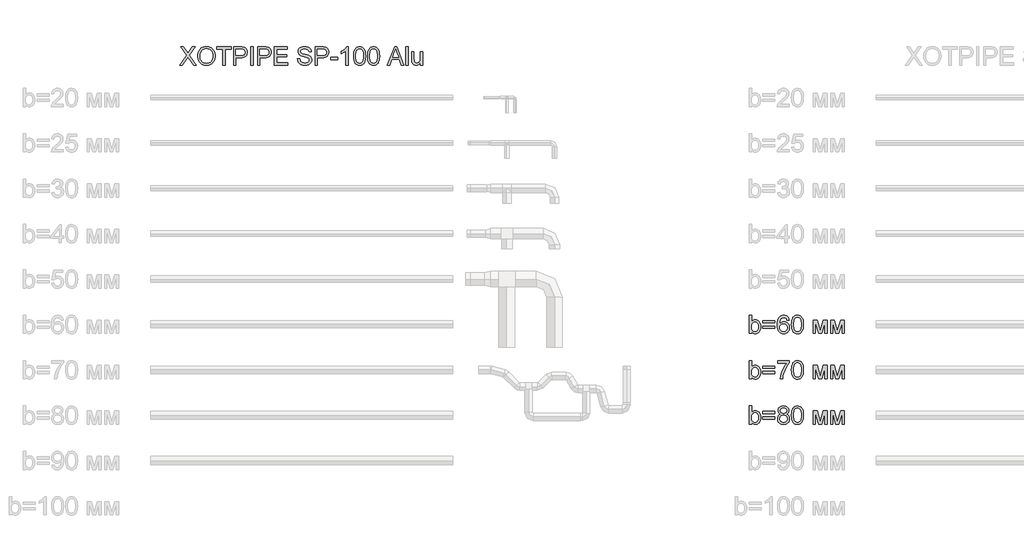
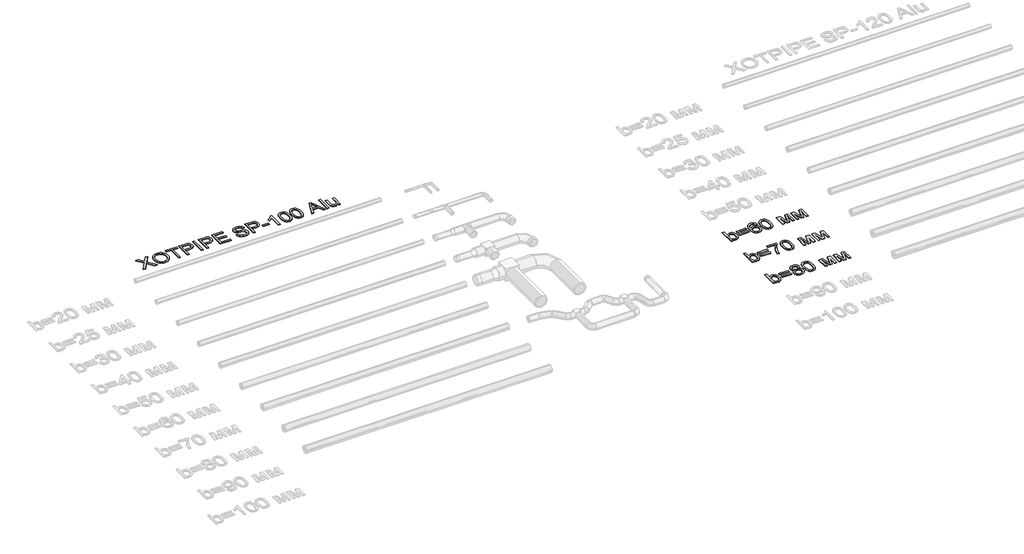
# One storey, part 61 of 86: 4 proxies.
"""IFC4 building model written with IfcOpenShell, lengths in millimetres."""

from ifc_helpers import new_model, si_unit, origin, origin_with_axes, place, context, project, spatial, polyline, outline, extrude, element, save

model = new_model("IFC4")

# Units and contexts
model_context = context("Model", 3, world=origin())
ifc_project = project(units=[si_unit("LENGTHUNIT", "METRE", prefix="MILLI")], contexts=[model_context])

# Site, building, storey
site = spatial("IfcSite", under=ifc_project)
building = spatial("IfcBuilding", under=site)
storey = spatial("IfcBuildingStorey", under=building, Name="Уровень 1", Elevation=0.0)

# Proxies
placement = place(None, origin())
element("IfcBuildingElementProxy", 1, Name="Текст модели 1", ObjectType="Текст модели 1", at=placement, inside=storey, context=model_context, shape_type="SweptSolid", body=[
    extrude(outline(polyline([(28246.1062284, 60543.2937088), (28478.4604965, 60871.7387541), (28283.7773447, 61146.0315697), (28374.1291627, 61146.0315697), (28483.7579973, 60991.6682845), (28509.9144071, 60952.5624284), (28520.6933496, 60931.4827901), (28563.9562722, 60992.6983541), (28672.4078844, 61146.0315697), (28764.0840776, 61146.0315697), (28569.4009257, 60870.8558373), (28801.7551939, 60543.2937088), (28711.4033759, 60543.2937088), (28556.5986323, 60761.6684611), (28524.3721695, 60806.9915229), (28488.9083452, 60757.2538772), (28337.7824216, 60543.2937088), (28246.1062284, 60543.2937088)])), origin_with_axes(), (0.0, 0.0, 1.0), 20.0),
    extrude(outline(polyline([(28848.8440893, 60836.7163882), (28853.8656785, 60907.4141106), (28868.9304462, 60970.000035), (28894.0383924, 61024.4741614), (28910.3585574, 61048.6693004), (28929.189517, 61070.8364899), (28972.2776957, 61107.8546156), (29021.196804, 61134.2961341), (29075.9468419, 61150.1610451), (29136.5278095, 61155.4493488), (29177.0776024, 61152.9661453), (29215.5856503, 61145.5165349), (29252.051953, 61133.1005176), (29286.4765107, 61115.7180933), (29317.8936331, 61093.8934939), (29345.33763, 61068.1509513), (29368.8085013, 61038.4904655), (29388.306247, 61004.9120363), (29403.6285321, 60968.1790191), (29414.5730215, 60929.0547689), (29421.1397151, 60887.5392858), (29423.3286129, 60843.6325697), (29421.0247519, 60799.1464394), (29414.113169, 60757.0699362), (29402.593864, 60717.4030601), (29386.466837, 60680.145811), (29366.1137656, 60646.2822733), (29341.9163274, 60616.7965314), (29313.8745223, 60591.6885853), (29281.9883504, 60570.9584348), (29247.5132089, 60554.7348388), (29211.7044952, 60543.146556), (29174.5622093, 60536.1935863), (29136.0863511, 60533.8759297), (29094.8283853, 60536.4373081), (29055.8144998, 60544.1214433), (29019.0446943, 60556.9283352), (28984.5189691, 60574.857984), (28953.1386349, 60597.2160122), (28925.8050027, 60623.3080428), (28902.5180724, 60653.1340755), (28883.277844, 60686.6941105), (28868.2130763, 60722.64078), (28857.452528, 60759.6267161), (28850.9961989, 60797.6519188), (28848.8440893, 60836.7163882)]), holes=[polyline([(28924.1863219, 60835.9806242), (28927.9525138, 60786.0314463), (28939.2510896, 60741.6924688), (28958.0820492, 60702.9636918), (28984.4453927, 60669.8451151), (29016.492513, 60643.3208233), (29052.3748031, 60624.3749005), (29092.092263, 60613.0073469), (29135.6448927, 60609.2181623), (29179.9424835, 60613.0441351), (29220.1289929, 60624.5220533), (29256.2044211, 60643.6519171), (29288.1687679, 60670.4337263), (29314.3389733, 60704.2512787), (29333.0319772, 60744.488372), (29344.2477795, 60791.145006), (29347.9863803, 60844.2211809), (29346.3860936, 60878.7009209), (29341.5852336, 60910.9181866), (29333.5838002, 60940.872978), (29322.3817935, 60968.5652952), (29308.1033735, 60993.6318547), (29290.8727006, 61015.7093729), (29270.6897746, 61034.7978499), (29247.5545956, 61050.8972857), (29222.1845335, 61063.6765866), (29195.2969582, 61072.8046586), (29166.8918697, 61078.2815018), (29136.9692679, 61080.1071162), (29094.9295529, 61076.5892446), (29055.9248644, 61066.0356298), (29019.9552023, 61048.446272), (28987.0205667, 61023.8211709), (28959.5305846, 60990.9739073), (28939.8948831, 60948.7180616), (28928.1134622, 60897.0536339), (28924.1863219, 60835.9806242)])]), origin_with_axes(), (0.0, 0.0, 1.0), 20.0),
    extrude(outline(polyline([(29677.608648, 60543.2937088), (29677.608648, 61070.6893371), (29479.8352874, 61070.6893371), (29479.8352874, 61146.0315697), (29950.7242412, 61146.0315697), (29950.7242412, 61070.6893371), (29752.9508806, 61070.6893371), (29752.9508806, 60543.2937088), (29677.608648, 60543.2937088)])), origin_with_axes(), (0.0, 0.0, 1.0), 20.0),
    extrude(outline(polyline([(30035.4842529, 60543.2937088), (30035.4842529, 61146.0315697), (30258.8622004, 61146.0315697), (30310.8807145, 61144.5968299), (30348.9197128, 61140.2926106), (30389.0740326, 61129.5688504), (30422.1282298, 61112.1128497), (30448.7444922, 61087.1336623), (30469.5850072, 61053.8403417), (30483.0494882, 61014.5689387), (30487.5376486, 60971.655504), (30484.5072206, 60934.6557723), (30475.4159368, 60900.6174907), (30460.2637972, 60869.5406592), (30439.0508016, 60841.4252777), (30409.9283432, 60818.1199533), (30371.0478148, 60801.473293), (30322.4092165, 60791.4852968), (30264.0125483, 60788.1559648), (30110.8264855, 60788.1559648), (30110.8264855, 60543.2937088), (30035.4842529, 60543.2937088)]), holes=[polyline([(30110.8264855, 60863.4981974), (30268.4271323, 60863.4981974), (30304.6635088, 60865.2272428), (30335.2345026, 60870.4143789), (30360.1401137, 60879.0596058), (30379.380342, 60891.1629234), (30393.7369369, 60906.4024351), (30403.9916475, 60924.456244), (30410.1444738, 60945.3243502), (30412.195416, 60969.0067536), (30407.3577677, 61002.8518972), (30392.844823, 61031.39954), (30370.4592036, 61052.8838485), (30342.0035313, 61065.5389892), (30312.9408537, 61069.4017501), (30266.6612987, 61070.6893371), (30110.8264855, 61070.6893371), (30110.8264855, 60863.4981974)])]), origin_with_axes(), (0.0, 0.0, 1.0), 20.0),
    extrude(outline(polyline([(30600.5509975, 60543.2937088), (30600.5509975, 61146.0315697), (30675.8932301, 61146.0315697), (30675.8932301, 60543.2937088), (30600.5509975, 60543.2937088)])), origin_with_axes(), (0.0, 0.0, 1.0), 20.0),
    extrude(outline(polyline([(30826.5776953, 60543.2937088), (30826.5776953, 61146.0315697), (31049.9556428, 61146.0315697), (31101.9741569, 61144.5968299), (31140.0131552, 61140.2926106), (31180.167475, 61129.5688504), (31213.2216723, 61112.1128497), (31239.8379346, 61087.1336623), (31260.6784496, 61053.8403417), (31274.1429307, 61014.5689387), (31278.631091, 60971.655504), (31275.6006631, 60934.6557723), (31266.5093793, 60900.6174907), (31251.3572396, 60869.5406592), (31230.144244, 60841.4252777), (31201.0217856, 60818.1199533), (31162.1412572, 60801.473293), (31113.502659, 60791.4852968), (31055.1059907, 60788.1559648), (30901.919928, 60788.1559648), (30901.919928, 60543.2937088), (30826.5776953, 60543.2937088)]), holes=[polyline([(30901.919928, 60863.4981974), (31059.5205747, 60863.4981974), (31095.7569512, 60865.2272428), (31126.327945, 60870.4143789), (31151.2335561, 60879.0596058), (31170.4737844, 60891.1629234), (31184.8303793, 60906.4024351), (31195.0850899, 60924.456244), (31201.2379163, 60945.3243502), (31203.2888584, 60969.0067536), (31198.4512102, 61002.8518972), (31183.9382655, 61031.39954), (31161.552646, 61052.8838485), (31133.0969737, 61065.5389892), (31104.0342961, 61069.4017501), (31057.7547411, 61070.6893371), (30901.919928, 61070.6893371), (30901.919928, 60863.4981974)])]), origin_with_axes(), (0.0, 0.0, 1.0), 20.0),
    extrude(outline(polyline([(31382.2266609, 60543.2937088), (31382.2266609, 61146.0315697), (31815.4444984, 61146.0315697), (31815.4444984, 61070.6893371), (31457.5688935, 61070.6893371), (31457.5688935, 60891.7515346), (31796.6089402, 60891.7515346), (31796.6089402, 60816.409302), (31457.5688935, 60816.409302), (31457.5688935, 60618.6359414), (31824.8622775, 60618.6359414), (31824.8622775, 60543.2937088), (31382.2266609, 60543.2937088)])), origin_with_axes(), (0.0, 0.0, 1.0), 20.0),
    extrude(outline(polyline([(32145.0667661, 60750.4848485), (32220.4089987, 60750.4848485), (32229.0542256, 60708.6750597), (32244.6892103, 60675.0690395), (32269.0797866, 60648.3975948), (32303.991788, 60627.3915329), (32346.6660994, 60613.761505), (32394.343606, 60609.2181623), (32436.3189416, 60612.657859), (32473.070353, 60622.976949), (32502.8504005, 60639.3109095), (32523.9116447, 60660.7952181), (32536.4380266, 60685.4617058), (32540.6134873, 60711.3422042), (32537.4864903, 60736.560515), (32528.1054994, 60758.3575232), (32509.0492121, 60776.953958), (32476.8963257, 60792.5705487), (32367.1939147, 60821.3389208), (32295.1810142, 60840.376814), (32249.1037943, 60858.4950023), (32211.5982249, 60883.8420717), (32185.0187507, 60914.5602183), (32169.1814308, 60949.9872545), (32163.9023242, 60989.4609925), (32165.5348006, 61011.8971957), (32170.4322296, 61033.5884379), (32178.5946114, 61054.534719), (32190.0219459, 61074.736039), (32204.5854743, 61093.3692621), (32222.1564381, 61109.6112522), (32242.7348372, 61123.4620093), (32266.3206717, 61134.9215334), (32319.3324672, 61150.3173949), (32378.0096454, 61155.4493488), (32441.5796542, 61150.0782716), (32497.2034118, 61133.9650403), (32521.5388058, 61121.9628902), (32542.8943556, 61107.4407484), (32561.2700613, 61090.398615), (32576.6659228, 61070.8364899), (32588.9623785, 61049.3245902), (32598.0398667, 61026.4331331), (32603.8983875, 61002.1621184), (32606.5379408, 60976.5115463), (32531.1957082, 60976.5115463), (32526.1557249, 61000.5526347), (32517.3633452, 61021.4667261), (32504.8185691, 61039.2538206), (32488.5213968, 61053.9139181), (32468.1683254, 61065.3734423), (32443.4558523, 61073.5588166), (32414.3839777, 61078.4700413), (32380.9527014, 61080.1071162), (32346.4545673, 61078.4884354), (32316.9780224, 61073.632393), (32292.5230668, 61065.5389892), (32273.0897004, 61054.2082237), (32258.2824501, 61040.5873928), (32247.7058427, 61025.6237927), (32241.3598783, 61009.3174232), (32239.2445568, 60991.6682845), (32240.7436759, 60976.4839552), (32245.2410333, 60962.7159715), (32252.736629, 60950.3643335), (32263.2304629, 60939.4290412), (32279.7483645, 60929.073163), (32305.7576215, 60918.6069203), (32386.2502021, 60897.343341), (32469.3179566, 60877.1466194), (32519.5706371, 60859.5250719), (32562.5208601, 60832.1914396), (32579.1261336, 60816.1241935), (32592.4848486, 60798.4566607), (32602.7533548, 60779.2808117), (32610.0880021, 60758.688617), (32615.9557199, 60713.2551906), (32614.2680612, 60689.6877503), (32609.2050853, 60666.8100887), (32600.766792, 60644.6222058), (32588.9531814, 60623.1241018), (32573.9711872, 60603.1481094), (32556.0277429, 60585.5265618), (32535.1228485, 60570.259459), (32511.2565041, 60557.346801), (32485.1230868, 60547.0782948), (32457.4169741, 60539.7436475), (32397.2866619, 60533.8759297), (32358.7464244, 60535.4578223), (32323.4711396, 60540.2035), (32291.4608075, 60548.1129629), (32262.7154281, 60559.186211), (32237.0602575, 60573.4416383), (32214.3205516, 60590.897639), (32194.4963106, 60611.554213), (32177.5875344, 60635.4113604), (32163.9667036, 60661.6965289), (32154.0062985, 60689.6371665), (32147.7063194, 60719.233273), (32145.0667661, 60750.4848485)])), origin_with_axes(), (0.0, 0.0, 1.0), 20.0),
    extrude(outline(polyline([(32728.9690688, 60543.2937088), (32728.9690688, 61146.0315697), (32952.3470163, 61146.0315697), (33004.3655304, 61144.5968299), (33042.4045287, 61140.2926106), (33082.5588485, 61129.5688504), (33115.6130457, 61112.1128497), (33142.2293081, 61087.1336623), (33163.0698231, 61053.8403417), (33176.5343041, 61014.5689387), (33181.0224645, 60971.655504), (33177.9920365, 60934.6557723), (33168.9007527, 60900.6174907), (33153.7486131, 60869.5406592), (33132.5356175, 60841.4252777), (33103.4131591, 60818.1199533), (33064.5326307, 60801.473293), (33015.8940324, 60791.4852968), (32957.4973642, 60788.1559648), (32804.3113014, 60788.1559648), (32804.3113014, 60543.2937088), (32728.9690688, 60543.2937088)]), holes=[polyline([(32804.3113014, 60863.4981974), (32961.9119481, 60863.4981974), (32998.1483247, 60865.2272428), (33028.7193185, 60870.4143789), (33053.6249295, 60879.0596058), (33072.8651579, 60891.1629234), (33087.2217528, 60906.4024351), (33097.4764634, 60924.456244), (33103.6292897, 60945.3243502), (33105.6802319, 60969.0067536), (33100.8425836, 61002.8518972), (33086.3296389, 61031.39954), (33063.9440195, 61052.8838485), (33035.4883472, 61065.5389892), (33006.4256696, 61069.4017501), (32960.1461146, 61070.6893371), (32804.3113014, 61070.6893371), (32804.3113014, 60863.4981974)])]), origin_with_axes(), (0.0, 0.0, 1.0), 20.0),
    extrude(outline(polyline([(33237.5291389, 60722.2315113), (33237.5291389, 60797.5737439), (33472.9736158, 60797.5737439), (33472.9736158, 60722.2315113), (33237.5291389, 60722.2315113)])), origin_with_axes(), (0.0, 0.0, 1.0), 20.0),
    extrude(outline(polyline([(33821.4314417, 60543.2937088), (33746.0892091, 60543.2937088), (33746.0892091, 61013.0054402), (33714.6352985, 60987.5664003), (33674.720102, 60962.1641485), (33632.8183427, 60939.9624701), (33595.4047438, 60924.1251502), (33595.4047438, 60995.3471045), (33654.5785628, 61027.5367791), (33705.8429188, 61065.8332947), (33746.254756, 61106.5578316), (33772.8710183, 61146.0315697), (33821.4314417, 61146.0315697), (33821.4314417, 60543.2937088)])), origin_with_axes(), (0.0, 0.0, 1.0), 20.0),
    extrude(outline(polyline([(34000.3692441, 60839.8065969), (34005.9058682, 60936.2836501), (34012.8266482, 60977.1967265), (34022.5157402, 61013.2261694), (34034.9317576, 61044.6662845), (34050.0333135, 61071.8113772), (34067.8204079, 61094.6614476), (34088.293041, 61113.2164957), (34111.5201904, 61127.5730906), (34137.5708342, 61137.8278012), (34166.4449723, 61143.9806276), (34198.1426047, 61146.0315697), (34244.5693125, 61141.1755274), (34286.139978, 61126.6074004), (34320.9048265, 61102.8974058), (34346.9140836, 61070.6157607), (34366.5589821, 61030.0383766), (34382.2307551, 60981.4411651), (34392.4946628, 60919.7289604), (34395.9159653, 60839.8065969), (34390.4345236, 60743.8813667), (34383.5827215, 60703.106246), (34373.9901984, 60667.1227884), (34361.6707501, 60635.6688778), (34346.6381721, 60608.4823983), (34328.8924643, 60585.56335), (34308.4336269, 60566.9117329), (34285.1788863, 60552.458569), (34259.045469, 60542.1348805), (34230.0333752, 60535.9406674), (34198.1426047, 60533.8759297), (34156.6455157, 60537.4627792), (34119.8573162, 60548.2233275), (34087.7780062, 60566.1575748), (34060.4075857, 60591.265521), (34034.1408113, 60636.6529621), (34015.3788295, 60693.2056218), (34004.1216405, 60760.9235001), (34000.3692441, 60839.8065969)]), holes=[polyline([(34075.7114767, 60839.9537497), (34077.9187687, 60774.456959), (34084.5406446, 60721.440565), (34095.5771045, 60680.9045676), (34111.0281483, 60652.848967), (34129.7165536, 60633.7604899), (34150.4650982, 60620.1258635), (34173.2737819, 60611.9450876), (34198.1426047, 60609.2181623), (34223.0114276, 60611.9542847), (34245.8201113, 60620.1626517), (34266.5686558, 60633.8432634), (34285.2570612, 60652.9961198), (34300.708105, 60681.0977057), (34311.7445648, 60721.624506), (34318.3664408, 60774.5765206), (34320.5737327, 60839.9537497), (34318.4400172, 60903.7168965), (34312.0388704, 60955.79979), (34301.3702926, 60996.2024301), (34286.4342836, 61024.9248169), (34268.0585779, 61044.9467945), (34247.0709101, 61059.248207), (34223.4712801, 61067.8290546), (34197.2596879, 61070.6893371), (34172.5196238, 61068.1693454), (34150.0972162, 61060.6093704), (34129.9924651, 61048.0094121), (34112.2053707, 61030.3694704), (34096.2392921, 60999.0995008), (34084.8349502, 60956.9402242), (34077.9923451, 60903.8916405), (34075.7114767, 60839.9537497)])]), origin_with_axes(), (0.0, 0.0, 1.0), 20.0),
    extrude(outline(polyline([(34461.8404189, 60839.8065969), (34467.3770429, 60936.2836501), (34474.2978229, 60977.1967265), (34483.986915, 61013.2261694), (34496.4029323, 61044.6662845), (34511.5044882, 61071.8113772), (34529.2915827, 61094.6614476), (34549.7642157, 61113.2164957), (34572.9913652, 61127.5730906), (34599.042009, 61137.8278012), (34627.9161471, 61143.9806276), (34659.6137795, 61146.0315697), (34706.0404873, 61141.1755274), (34747.6111527, 61126.6074004), (34782.3760013, 61102.8974058), (34808.3852583, 61070.6157607), (34828.0301569, 61030.0383766), (34843.7019299, 60981.4411651), (34853.9658375, 60919.7289604), (34857.3871401, 60839.8065969), (34851.9056984, 60743.8813667), (34845.0538962, 60703.106246), (34835.4613732, 60667.1227884), (34823.1419249, 60635.6688778), (34808.1093468, 60608.4823983), (34790.3636391, 60585.56335), (34769.9048016, 60566.9117329), (34746.650061, 60552.458569), (34720.5166438, 60542.1348805), (34691.5045499, 60535.9406674), (34659.6137795, 60533.8759297), (34618.1166904, 60537.4627792), (34581.3284909, 60548.2233275), (34549.2491809, 60566.1575748), (34521.8787605, 60591.265521), (34495.611986, 60636.6529621), (34476.8500043, 60693.2056218), (34465.5928152, 60760.9235001), (34461.8404189, 60839.8065969)]), holes=[polyline([(34537.1826515, 60839.9537497), (34539.3899435, 60774.456959), (34546.0118194, 60721.440565), (34557.0482792, 60680.9045676), (34572.499323, 60652.848967), (34591.1877284, 60633.7604899), (34611.9362729, 60620.1258635), (34634.7449566, 60611.9450876), (34659.6137795, 60609.2181623), (34684.4826024, 60611.9542847), (34707.2912861, 60620.1626517), (34728.0398306, 60633.8432634), (34746.7282359, 60652.9961198), (34762.1792797, 60681.0977057), (34773.2157396, 60721.624506), (34779.8376155, 60774.5765206), (34782.0449075, 60839.9537497), (34779.9111919, 60903.7168965), (34773.5100452, 60955.79979), (34762.8414673, 60996.2024301), (34747.9054583, 61024.9248169), (34729.5297527, 61044.9467945), (34708.5420848, 61059.248207), (34684.9424549, 61067.8290546), (34658.7308627, 61070.6893371), (34633.9907985, 61068.1693454), (34611.5683909, 61060.6093704), (34591.4636399, 61048.0094121), (34573.6765454, 61030.3694704), (34557.7104668, 60999.0995008), (34546.306125, 60956.9402242), (34539.4635199, 60903.8916405), (34537.1826515, 60839.9537497)])]), origin_with_axes(), (0.0, 0.0, 1.0), 20.0),
    extrude(outline(polyline([(35116.8175231, 60543.2937088), (35357.4123479, 61146.0315697), (35421.5709679, 61146.0315697), (35662.1657927, 60543.2937088), (35582.556129, 60543.2937088), (35513.5414667, 60731.6492903), (35265.2946963, 60731.6492903), (35196.4271868, 60543.2937088), (35116.8175231, 60543.2937088)]), holes=[polyline([(35292.9594224, 60806.9915229), (35486.0238935, 60806.9915229), (35431.724511, 60955.1743906), (35389.4916579, 61070.6893371), (35351.9676944, 60968.1238368), (35292.9594224, 60806.9915229)])]), origin_with_axes(), (0.0, 0.0, 1.0), 20.0),
    extrude(outline(polyline([(35733.2405942, 60543.2937088), (35733.2405942, 61146.0315697), (35808.5828268, 61146.0315697), (35808.5828268, 60543.2937088), (35733.2405942, 60543.2937088)])), origin_with_axes(), (0.0, 0.0, 1.0), 20.0),
    extrude(outline(polyline([(36204.129548, 60543.2937088), (36204.129548, 60619.3717054), (36176.8694922, 60581.9673035), (36145.121276, 60555.2498736), (36108.8848995, 60539.2194157), (36068.1603626, 60533.8759297), (36031.4641336, 60537.6283261), (35997.3062903, 60548.8855151), (35968.6482829, 60565.8080869), (35948.4515614, 60586.5566314), (35934.8583217, 60611.7565481), (35926.0107597, 60642.0332363), (35921.5961757, 60712.0779682), (35921.5961757, 60985.9293254), (35996.9384084, 60985.9293254), (35996.9384084, 60747.5417925), (35998.0788425, 60699.8642859), (36001.5001451, 60670.7280319), (36012.4814226, 60645.105051), (36031.2985867, 60625.6256993), (36056.7008385, 60613.3200466), (36087.4373792, 60609.2181623), (36119.9397534, 60613.4120171), (36150.3452003, 60625.9935813), (36175.4163583, 60645.8040268), (36191.9158658, 60671.6845251), (36201.0761275, 60707.1299554), (36204.129548, 60755.6351964), (36204.129548, 60985.9293254), (36279.4717806, 60985.9293254), (36279.4717806, 60543.2937088), (36204.129548, 60543.2937088)])), origin_with_axes(), (0.0, 0.0, 1.0), 20.0),
])
element("IfcBuildingElementProxy", 2, Name="Текст модели 1", ObjectType="Текст модели 1", at=placement, inside=storey, context=model_context, shape_type="SweptSolid", body=[
    extrude(outline(polyline([(47159.6307988, 51669.2937088), (47084.2885662, 51669.2937088), (47084.2885662, 52272.0315697), (47159.6307988, 52272.0315697), (47159.6307988, 52048.5064694), (47184.4076512, 52080.3742473), (47212.3850769, 52103.1369457), (47243.563076, 52116.7945648), (47277.9416484, 52121.3471045), (47316.7531989, 52117.2452202), (47353.4310339, 52104.9395675), (47385.8782258, 52085.2026984), (47411.9978475, 52058.8071653), (47432.4704805, 52026.0104854), (47447.9767066, 51987.0701762), (47457.7439736, 51943.6049185), (47460.9997292, 51897.233393), (47457.6290105, 51843.7249568), (47447.5168541, 51796.6544555), (47430.6632602, 51756.0218892), (47407.0682288, 51721.8272577), (47378.7459136, 51694.7235517), (47347.7104688, 51675.3637617), (47313.9618943, 51663.7478877), (47277.50019, 51659.8759297), (47241.9903805, 51664.8699278), (47210.5088787, 51679.8519221), (47183.0556848, 51704.8219125), (47159.6307988, 51739.7798991), (47159.6307988, 51669.2937088)]), holes=[polyline([(47159.6307988, 51893.7017259), (47164.7811467, 51830.8674811), (47171.2190816, 51807.065516), (47180.2321905, 51788.3403224), (47198.4883345, 51765.0993774), (47219.7059286, 51748.4987024), (47243.8849727, 51738.5382973), (47271.0254669, 51735.2181623), (47293.5582391, 51737.6645776), (47314.5091188, 51745.0038234), (47333.8781058, 51757.2358997), (47351.6652003, 51774.3608066), (47366.5368299, 51796.3325588), (47377.1594225, 51823.105171), (47383.5329781, 51854.6786432), (47385.6574966, 51891.0529755), (47383.6203501, 51928.1170865), (47377.5089104, 51959.9940614), (47367.3231777, 51986.6839001), (47353.0631519, 52008.1866028), (47335.9152524, 52024.7320955), (47317.0658986, 52036.5503046), (47296.5150907, 52043.64123), (47274.2628285, 52046.0048719), (47251.7300563, 52043.5584566), (47230.7791767, 52036.2192108), (47211.4101896, 52023.9871344), (47193.6230951, 52006.8622276), (47178.7514655, 51985.1112046), (47168.1288729, 51959.00078), (47161.7553173, 51928.5309538), (47159.6307988, 51893.7017259)])]), origin_with_axes(), (0.0, 0.0, 1.0), 20.0),
    extrude(outline(polyline([(47931.8886831, 52017.7515346), (47536.3419619, 52017.7515346), (47536.3419619, 52093.0937672), (47931.8886831, 52093.0937672), (47931.8886831, 52017.7515346)])), origin_with_axes(), (0.0, 0.0, 1.0), 20.0),
    extrude(outline(polyline([(47931.8886831, 51838.8137322), (47536.3419619, 51838.8137322), (47536.3419619, 51914.1559648), (47931.8886831, 51914.1559648), (47931.8886831, 51838.8137322)])), origin_with_axes(), (0.0, 0.0, 1.0), 20.0),
    extrude(outline(polyline([(48402.7776369, 52111.9293254), (48327.4354043, 52102.5115463), (48315.2952984, 52139.8515688), (48298.8877615, 52165.3457911), (48282.6917566, 52179.0585925), (48264.7115241, 52188.8534506), (48244.9470639, 52194.7303655), (48223.398376, 52196.6893371), (48188.3760101, 52192.1276003), (48155.4137833, 52178.4423901), (48127.1052638, 52149.6188358), (48103.9838804, 52109.9427626), (48094.9477789, 52084.6370799), (48088.3672897, 52053.8223643), (48082.5731483, 51975.6658344), (48112.7946542, 52010.9273236), (48149.0126366, 52035.7777524), (48189.2037446, 52050.5114263), (48231.3446271, 52055.4226509), (48267.5442155, 52052.0657277), (48300.9479006, 52041.9949581), (48331.5556826, 52025.2103421), (48359.3675615, 52001.7118796), (48382.4797478, 51972.8975224), (48398.9884523, 51940.1652218), (48408.8936751, 51903.5149781), (48412.195416, 51862.9467911), (48410.6411145, 51835.4798016), (48405.9782103, 51808.9968965), (48398.2067031, 51783.4980757), (48387.3265931, 51758.9833392), (48373.7241563, 51736.3677936), (48357.7856689, 51716.5665452), (48339.5111308, 51699.5795941), (48318.900542, 51685.4069402), (48296.3953609, 51674.2371231), (48272.437046, 51666.2586823), (48247.0255972, 51661.4716179), (48220.1610145, 51659.8759297), (48175.2472214, 51664.1065727), (48134.6836329, 51676.7985015), (48098.470249, 51697.9517162), (48066.6070697, 51727.5662168), (48040.6300023, 51766.8928021), (48022.0749542, 51817.1822709), (48010.9419253, 51878.4346231), (48007.2309157, 51950.6498587), (48011.351194, 52031.6114888), (48023.7120291, 52100.7089245), (48044.3134208, 52157.9421659), (48057.7043254, 52182.1097138), (48073.1553692, 52203.311213), (48104.4161418, 52233.3763691), (48140.6617153, 52254.8514805), (48181.8920899, 52267.7365474), (48228.1072656, 52272.0315697), (48262.8077348, 52269.3736223), (48294.2156601, 52261.39978), (48322.3310416, 52248.110043), (48347.1538792, 52229.5044111), (48368.0127884, 52206.2082837), (48384.2363843, 52178.8470603), (48395.8246672, 52147.4207409), (48402.7776369, 52111.9293254)]), holes=[polyline([(48082.5731483, 51864.1240134), (48086.9325499, 51830.7387224), (48100.0107549, 51798.8617475), (48120.317841, 51771.4545389), (48146.3638863, 51751.4785465), (48177.7994027, 51739.2832584), (48214.2749026, 51735.2181623), (48240.4635021, 51737.3242868), (48263.9941542, 51743.64266), (48284.8668589, 51754.1732821), (48303.0816162, 51768.9161531), (48317.8566768, 51787.2734647), (48328.4102916, 51808.6474086), (48334.7424604, 51833.0379849), (48336.8531834, 51860.4451935), (48334.7700516, 51886.7809458), (48328.5206562, 51910.1644451), (48318.1049972, 51930.5956914), (48303.5230746, 51948.0746847), (48285.253135, 51962.0771932), (48263.773425, 51972.0789849), (48239.0839446, 51978.08006), (48211.1846938, 51980.0804183), (48185.3455822, 51978.08006), (48161.5390186, 51972.0789849), (48139.765003, 51962.0771932), (48120.0235354, 51948.0746847), (48103.638991, 51930.8256177), (48091.9357451, 51911.0841501), (48084.9137975, 51888.850282), (48082.5731483, 51864.1240134)])]), origin_with_axes(), (0.0, 0.0, 1.0), 20.0),
    extrude(outline(polyline([(48478.1198695, 51965.8065969), (48483.6564935, 52062.2836501), (48490.5772736, 52103.1967265), (48500.2663656, 52139.2261694), (48512.682383, 52170.6662845), (48527.7839389, 52197.8113772), (48545.5710333, 52220.6614476), (48566.0436664, 52239.2164957), (48589.2708158, 52253.5730906), (48615.3214596, 52263.8278012), (48644.1955977, 52269.9806276), (48675.8932301, 52272.0315697), (48722.3199379, 52267.1755274), (48763.8906034, 52252.6074004), (48798.6554519, 52228.8974058), (48824.664709, 52196.6157607), (48844.3096075, 52156.0383766), (48859.9813805, 52107.4411651), (48870.2452882, 52045.7289604), (48873.6665907, 51965.8065969), (48868.185149, 51869.8813667), (48861.3333468, 51829.106246), (48851.7408238, 51793.1227884), (48839.4213755, 51761.6688778), (48824.3887975, 51734.4823983), (48806.6430897, 51711.56335), (48786.1842523, 51692.9117329), (48762.9295116, 51678.458569), (48736.7960944, 51668.1348805), (48707.7840006, 51661.9406674), (48675.8932301, 51659.8759297), (48634.3961411, 51663.4627792), (48597.6079415, 51674.2233275), (48565.5286316, 51692.1575748), (48538.1582111, 51717.265521), (48511.8914367, 51762.6529621), (48493.1294549, 51819.2056218), (48481.8722659, 51886.9235001), (48478.1198695, 51965.8065969)]), holes=[polyline([(48553.4621021, 51965.9537497), (48555.6693941, 51900.456959), (48562.29127, 51847.440565), (48573.3277299, 51806.9045676), (48588.7787737, 51778.848967), (48607.467179, 51759.7604899), (48628.2157235, 51746.1258635), (48651.0244072, 51737.9450876), (48675.8932301, 51735.2181623), (48700.762053, 51737.9542847), (48723.5707367, 51746.1626517), (48744.3192812, 51759.8432634), (48763.0076866, 51778.9961198), (48778.4587304, 51807.0977057), (48789.4951902, 51847.624506), (48796.1170661, 51900.5765206), (48798.3243581, 51965.9537497), (48796.1906425, 52029.7168965), (48789.7894958, 52081.79979), (48779.120918, 52122.2024301), (48764.184909, 52150.9248169), (48745.8092033, 52170.9467945), (48724.8215355, 52185.248207), (48701.2219055, 52193.8290546), (48675.0103133, 52196.6893371), (48650.2702492, 52194.1693454), (48627.8478415, 52186.6093704), (48607.7430905, 52174.0094121), (48589.955996, 52156.3694704), (48573.9899175, 52125.0995008), (48562.5855756, 52082.9402242), (48555.7429705, 52029.8916405), (48553.4621021, 51965.9537497)])]), origin_with_axes(), (0.0, 0.0, 1.0), 20.0),
    extrude(outline(polyline([(49193.8710793, 52111.9293254), (49323.5126944, 52111.9293254), (49423.4294443, 51757.5853876), (49531.1452925, 52111.9293254), (49655.3422541, 52111.9293254), (49655.3422541, 51669.2937088), (49580.0000215, 51669.2937088), (49580.0000215, 52025.6977857), (49471.6955621, 51669.2937088), (49372.8088818, 51669.2937088), (49269.2133119, 52042.7675103), (49269.2133119, 51669.2937088), (49193.8710793, 51669.2937088), (49193.8710793, 52111.9293254)])), origin_with_axes(), (0.0, 0.0, 1.0), 20.0),
    extrude(outline(polyline([(49768.355603, 52111.9293254), (49897.9972181, 52111.9293254), (49997.913968, 51757.5853876), (50105.6298162, 52111.9293254), (50229.8267777, 52111.9293254), (50229.8267777, 51669.2937088), (50154.4845451, 51669.2937088), (50154.4845451, 52025.6977857), (50046.1800857, 51669.2937088), (49947.2934054, 51669.2937088), (49843.6978356, 52042.7675103), (49843.6978356, 51669.2937088), (49768.355603, 51669.2937088), (49768.355603, 52111.9293254)])), origin_with_axes(), (0.0, 0.0, 1.0), 20.0),
])
element("IfcBuildingElementProxy", 3, Name="Текст модели 1", ObjectType="Текст модели 1", at=placement, inside=storey, context=model_context, shape_type="SweptSolid", body=[
    extrude(outline(polyline([(47159.6307988, 50169.2937088), (47084.2885662, 50169.2937088), (47084.2885662, 50772.0315697), (47159.6307988, 50772.0315697), (47159.6307988, 50548.5064694), (47184.4076512, 50580.3742473), (47212.3850769, 50603.1369457), (47243.563076, 50616.7945648), (47277.9416484, 50621.3471045), (47316.7531989, 50617.2452202), (47353.4310339, 50604.9395675), (47385.8782258, 50585.2026984), (47411.9978475, 50558.8071653), (47432.4704805, 50526.0104854), (47447.9767066, 50487.0701762), (47457.7439736, 50443.6049185), (47460.9997292, 50397.233393), (47457.6290105, 50343.7249568), (47447.5168541, 50296.6544555), (47430.6632602, 50256.0218892), (47407.0682288, 50221.8272577), (47378.7459136, 50194.7235517), (47347.7104688, 50175.3637617), (47313.9618943, 50163.7478877), (47277.50019, 50159.8759297), (47241.9903805, 50164.8699278), (47210.5088787, 50179.8519221), (47183.0556848, 50204.8219125), (47159.6307988, 50239.7798991), (47159.6307988, 50169.2937088)]), holes=[polyline([(47159.6307988, 50393.7017259), (47164.7811467, 50330.8674811), (47171.2190816, 50307.065516), (47180.2321905, 50288.3403224), (47198.4883345, 50265.0993774), (47219.7059286, 50248.4987024), (47243.8849727, 50238.5382973), (47271.0254669, 50235.2181623), (47293.5582391, 50237.6645776), (47314.5091188, 50245.0038234), (47333.8781058, 50257.2358997), (47351.6652003, 50274.3608066), (47366.5368299, 50296.3325588), (47377.1594225, 50323.105171), (47383.5329781, 50354.6786432), (47385.6574966, 50391.0529755), (47383.6203501, 50428.1170865), (47377.5089104, 50459.9940614), (47367.3231777, 50486.6839001), (47353.0631519, 50508.1866028), (47335.9152524, 50524.7320955), (47317.0658986, 50536.5503046), (47296.5150907, 50543.64123), (47274.2628285, 50546.0048719), (47251.7300563, 50543.5584566), (47230.7791767, 50536.2192108), (47211.4101896, 50523.9871344), (47193.6230951, 50506.8622276), (47178.7514655, 50485.1112046), (47168.1288729, 50459.00078), (47161.7553173, 50428.5309538), (47159.6307988, 50393.7017259)])]), origin_with_axes(), (0.0, 0.0, 1.0), 20.0),
    extrude(outline(polyline([(47931.8886831, 50517.7515346), (47536.3419619, 50517.7515346), (47536.3419619, 50593.0937672), (47931.8886831, 50593.0937672), (47931.8886831, 50517.7515346)])), origin_with_axes(), (0.0, 0.0, 1.0), 20.0),
    extrude(outline(polyline([(47931.8886831, 50338.8137322), (47536.3419619, 50338.8137322), (47536.3419619, 50414.1559648), (47931.8886831, 50414.1559648), (47931.8886831, 50338.8137322)])), origin_with_axes(), (0.0, 0.0, 1.0), 20.0),
    extrude(outline(polyline([(48016.6486948, 50687.271558), (48016.6486948, 50762.6137906), (48412.195416, 50762.6137906), (48412.195416, 50701.6925322), (48355.8175002, 50630.3418193), (48299.9914074, 50539.6037251), (48250.7504024, 50437.7555948), (48230.861782, 50385.7692703), (48214.1277498, 50333.0747731), (48196.1751084, 50254.7526963), (48186.1687181, 50169.2937088), (48110.8264855, 50169.2937088), (48118.9750717, 50246.953598), (48140.7720799, 50339.2551906), (48156.6415895, 50388.6203558), (48175.628899, 50437.0934072), (48197.7340084, 50484.6743447), (48222.9569177, 50531.3631685), (48278.2127933, 50616.5830326), (48336.8531834, 50687.271558), (48016.6486948, 50687.271558)])), origin_with_axes(), (0.0, 0.0, 1.0), 20.0),
    extrude(outline(polyline([(48478.1198695, 50465.8065969), (48483.6564935, 50562.2836501), (48490.5772736, 50603.1967265), (48500.2663656, 50639.2261694), (48512.682383, 50670.6662845), (48527.7839389, 50697.8113772), (48545.5710333, 50720.6614476), (48566.0436664, 50739.2164957), (48589.2708158, 50753.5730906), (48615.3214596, 50763.8278012), (48644.1955977, 50769.9806276), (48675.8932301, 50772.0315697), (48722.3199379, 50767.1755274), (48763.8906034, 50752.6074004), (48798.6554519, 50728.8974058), (48824.664709, 50696.6157607), (48844.3096075, 50656.0383766), (48859.9813805, 50607.4411651), (48870.2452882, 50545.7289604), (48873.6665907, 50465.8065969), (48868.185149, 50369.8813667), (48861.3333468, 50329.106246), (48851.7408238, 50293.1227884), (48839.4213755, 50261.6688778), (48824.3887975, 50234.4823983), (48806.6430897, 50211.56335), (48786.1842523, 50192.9117329), (48762.9295116, 50178.458569), (48736.7960944, 50168.1348805), (48707.7840006, 50161.9406674), (48675.8932301, 50159.8759297), (48634.3961411, 50163.4627792), (48597.6079415, 50174.2233275), (48565.5286316, 50192.1575748), (48538.1582111, 50217.265521), (48511.8914367, 50262.6529621), (48493.1294549, 50319.2056218), (48481.8722659, 50386.9235001), (48478.1198695, 50465.8065969)]), holes=[polyline([(48553.4621021, 50465.9537497), (48555.6693941, 50400.456959), (48562.29127, 50347.440565), (48573.3277299, 50306.9045676), (48588.7787737, 50278.848967), (48607.467179, 50259.7604899), (48628.2157235, 50246.1258635), (48651.0244072, 50237.9450876), (48675.8932301, 50235.2181623), (48700.762053, 50237.9542847), (48723.5707367, 50246.1626517), (48744.3192812, 50259.8432634), (48763.0076866, 50278.9961198), (48778.4587304, 50307.0977057), (48789.4951902, 50347.624506), (48796.1170661, 50400.5765206), (48798.3243581, 50465.9537497), (48796.1906425, 50529.7168965), (48789.7894958, 50581.79979), (48779.120918, 50622.2024301), (48764.184909, 50650.9248169), (48745.8092033, 50670.9467945), (48724.8215355, 50685.248207), (48701.2219055, 50693.8290546), (48675.0103133, 50696.6893371), (48650.2702492, 50694.1693454), (48627.8478415, 50686.6093704), (48607.7430905, 50674.0094121), (48589.955996, 50656.3694704), (48573.9899175, 50625.0995008), (48562.5855756, 50582.9402242), (48555.7429705, 50529.8916405), (48553.4621021, 50465.9537497)])]), origin_with_axes(), (0.0, 0.0, 1.0), 20.0),
    extrude(outline(polyline([(49193.8710793, 50611.9293254), (49323.5126944, 50611.9293254), (49423.4294443, 50257.5853876), (49531.1452925, 50611.9293254), (49655.3422541, 50611.9293254), (49655.3422541, 50169.2937088), (49580.0000215, 50169.2937088), (49580.0000215, 50525.6977857), (49471.6955621, 50169.2937088), (49372.8088818, 50169.2937088), (49269.2133119, 50542.7675103), (49269.2133119, 50169.2937088), (49193.8710793, 50169.2937088), (49193.8710793, 50611.9293254)])), origin_with_axes(), (0.0, 0.0, 1.0), 20.0),
    extrude(outline(polyline([(49768.355603, 50611.9293254), (49897.9972181, 50611.9293254), (49997.913968, 50257.5853876), (50105.6298162, 50611.9293254), (50229.8267777, 50611.9293254), (50229.8267777, 50169.2937088), (50154.4845451, 50169.2937088), (50154.4845451, 50525.6977857), (50046.1800857, 50169.2937088), (49947.2934054, 50169.2937088), (49843.6978356, 50542.7675103), (49843.6978356, 50169.2937088), (49768.355603, 50169.2937088), (49768.355603, 50611.9293254)])), origin_with_axes(), (0.0, 0.0, 1.0), 20.0),
])
element("IfcBuildingElementProxy", 4, Name="Текст модели 1", ObjectType="Текст модели 1", at=placement, inside=storey, context=model_context, shape_type="SweptSolid", body=[
    extrude(outline(polyline([(47159.6307988, 48669.2937088), (47084.2885662, 48669.2937088), (47084.2885662, 49272.0315697), (47159.6307988, 49272.0315697), (47159.6307988, 49048.5064694), (47184.4076512, 49080.3742473), (47212.3850769, 49103.1369457), (47243.563076, 49116.7945648), (47277.9416484, 49121.3471045), (47316.7531989, 49117.2452202), (47353.4310339, 49104.9395675), (47385.8782258, 49085.2026984), (47411.9978475, 49058.8071653), (47432.4704805, 49026.0104854), (47447.9767066, 48987.0701762), (47457.7439736, 48943.6049185), (47460.9997292, 48897.233393), (47457.6290105, 48843.7249568), (47447.5168541, 48796.6544555), (47430.6632602, 48756.0218892), (47407.0682288, 48721.8272577), (47378.7459136, 48694.7235517), (47347.7104688, 48675.3637617), (47313.9618943, 48663.7478877), (47277.50019, 48659.8759297), (47241.9903805, 48664.8699278), (47210.5088787, 48679.8519221), (47183.0556848, 48704.8219125), (47159.6307988, 48739.7798991), (47159.6307988, 48669.2937088)]), holes=[polyline([(47159.6307988, 48893.7017259), (47164.7811467, 48830.8674811), (47171.2190816, 48807.065516), (47180.2321905, 48788.3403224), (47198.4883345, 48765.0993774), (47219.7059286, 48748.4987024), (47243.8849727, 48738.5382973), (47271.0254669, 48735.2181623), (47293.5582391, 48737.6645776), (47314.5091188, 48745.0038234), (47333.8781058, 48757.2358997), (47351.6652003, 48774.3608066), (47366.5368299, 48796.3325588), (47377.1594225, 48823.105171), (47383.5329781, 48854.6786432), (47385.6574966, 48891.0529755), (47383.6203501, 48928.1170865), (47377.5089104, 48959.9940614), (47367.3231777, 48986.6839001), (47353.0631519, 49008.1866028), (47335.9152524, 49024.7320955), (47317.0658986, 49036.5503046), (47296.5150907, 49043.64123), (47274.2628285, 49046.0048719), (47251.7300563, 49043.5584566), (47230.7791767, 49036.2192108), (47211.4101896, 49023.9871344), (47193.6230951, 49006.8622276), (47178.7514655, 48985.1112046), (47168.1288729, 48959.00078), (47161.7553173, 48928.5309538), (47159.6307988, 48893.7017259)])]), origin_with_axes(), (0.0, 0.0, 1.0), 20.0),
    extrude(outline(polyline([(47931.8886831, 49017.7515346), (47536.3419619, 49017.7515346), (47536.3419619, 49093.0937672), (47931.8886831, 49093.0937672), (47931.8886831, 49017.7515346)])), origin_with_axes(), (0.0, 0.0, 1.0), 20.0),
    extrude(outline(polyline([(47931.8886831, 48838.8137322), (47536.3419619, 48838.8137322), (47536.3419619, 48914.1559648), (47931.8886831, 48914.1559648), (47931.8886831, 48838.8137322)])), origin_with_axes(), (0.0, 0.0, 1.0), 20.0),
    extrude(outline(polyline([(48126.4246821, 49001.2704212), (48086.0864213, 49021.136049), (48070.4284439, 49033.7176132), (48057.7779018, 49048.065011), (48041.0576651, 49081.5054844), (48035.4842529, 49120.9056461), (48038.5192794, 49151.6329897), (48047.6243588, 49179.8035535), (48062.7994911, 49205.4173374), (48084.0446763, 49228.4743415), (48110.3390419, 49247.5306288), (48140.6617153, 49261.1422626), (48175.0126966, 49269.3092429), (48213.3919858, 49272.0315697), (48251.9552159, 49269.2448636), (48286.5637146, 49260.8847452), (48317.2174819, 49246.9512147), (48343.9165177, 49227.4442719), (48365.547979, 49203.9366124), (48380.9990228, 49178.0009317), (48390.2696491, 49149.6372299), (48393.3598578, 49118.8455069), (48387.860022, 49080.7145381), (48371.3605145, 49047.8442818), (48358.9398986, 49033.593453), (48343.6773944, 49021.0808667), (48304.6267206, 49001.2704212), (48329.3897774, 48990.7352006), (48350.9982461, 48977.3764857), (48369.4521267, 48961.1942764), (48384.7514191, 48942.1885728), (48396.7581677, 48920.7824392), (48405.3344168, 48897.3989399), (48410.4801662, 48872.0380749), (48412.195416, 48844.6998441), (48408.7925075, 48807.1206983), (48398.5837822, 48772.6685494), (48381.5692399, 48741.3433976), (48357.7488807, 48713.1452426), (48328.3735034, 48689.8399182), (48294.6939067, 48673.1932579), (48256.7100907, 48663.2052618), (48214.4220554, 48659.8759297), (48172.13402, 48663.2190574), (48134.150204, 48673.2484402), (48100.4706074, 48689.9640784), (48071.09523, 48713.3659718), (48047.2748709, 48741.7618633), (48030.2603286, 48773.4594957), (48020.0516032, 48808.458869), (48016.6486948, 48846.7599833), (48018.4329224, 48875.3444143), (48023.7856055, 48901.5008242), (48032.7067438, 48925.2292128), (48045.1963376, 48946.5295804), (48060.9784752, 48965.0156506), (48079.7772451, 48980.3011475), (48101.5926474, 48992.3860711), (48126.4246821, 49001.2704212)]), holes=[polyline([(48110.8264855, 49118.6983541), (48112.4957501, 49101.4262944), (48117.5035437, 49085.8097037), (48125.8498665, 49071.848582), (48137.5347184, 49059.5429293), (48152.4109466, 49049.4997508), (48170.3313982, 49042.3260519), (48191.2960734, 49038.0218326), (48215.3049722, 49036.5870928), (48238.7206611, 49038.0126355), (48259.2300824, 49042.2892637), (48276.8332358, 49049.4169774), (48291.5301216, 49059.3957765), (48303.1184044, 49071.4439118), (48311.3957493, 49084.7796342), (48316.3621562, 49099.4029435), (48318.0176252, 49115.3138398), (48316.3069739, 49131.8455369), (48311.1750201, 49147.0068736), (48302.6217637, 49160.7978499), (48290.6472048, 49173.2184658), (48275.6192253, 49183.486972), (48257.9057072, 49190.8216193), (48237.5066506, 49195.2224076), (48214.4220554, 49196.6893371), (48191.1581177, 49195.2545973), (48170.662492, 49190.950378), (48152.9351784, 49183.7766791), (48137.9761768, 49173.7335006), (48126.0981868, 49161.6853652), (48117.6139083, 49148.4967957), (48112.5233412, 49134.167792), (48110.8264855, 49118.6983541)]), polyline([(48091.9909274, 48849.4087336), (48095.1363184, 48820.5851793), (48104.5724916, 48792.68133), (48121.9917041, 48768.345936), (48149.086213, 48750.2277477), (48181.533405, 48738.9705587), (48215.0106666, 48735.2181623), (48242.2523283, 48737.1909295), (48266.2934167, 48743.1092311), (48287.1339317, 48752.9730671), (48304.7738734, 48766.7824375), (48318.8085715, 48783.6360314), (48328.8333559, 48802.632538), (48334.8482265, 48823.7719571), (48336.8531834, 48847.0542889), (48334.7838471, 48870.7091012), (48328.5758385, 48892.2301979), (48318.2291574, 48911.617579), (48303.7438038, 48928.8712446), (48285.6256155, 48943.0347014), (48264.3804303, 48953.1514563), (48240.0082481, 48959.2215092), (48212.509069, 48961.2448602), (48185.6674789, 48959.2491003), (48161.9436888, 48953.2618209), (48141.3376985, 48943.2830218), (48123.8495082, 48929.312703), (48109.9113791, 48912.344146), (48099.9555726, 48893.3706321), (48093.9820887, 48872.3921613), (48091.9909274, 48849.4087336)])]), origin_with_axes(), (0.0, 0.0, 1.0), 20.0),
    extrude(outline(polyline([(48478.1198695, 48965.8065969), (48483.6564935, 49062.2836501), (48490.5772736, 49103.1967265), (48500.2663656, 49139.2261694), (48512.682383, 49170.6662845), (48527.7839389, 49197.8113772), (48545.5710333, 49220.6614476), (48566.0436664, 49239.2164957), (48589.2708158, 49253.5730906), (48615.3214596, 49263.8278012), (48644.1955977, 49269.9806276), (48675.8932301, 49272.0315697), (48722.3199379, 49267.1755274), (48763.8906034, 49252.6074004), (48798.6554519, 49228.8974058), (48824.664709, 49196.6157607), (48844.3096075, 49156.0383766), (48859.9813805, 49107.4411651), (48870.2452882, 49045.7289604), (48873.6665907, 48965.8065969), (48868.185149, 48869.8813667), (48861.3333468, 48829.106246), (48851.7408238, 48793.1227884), (48839.4213755, 48761.6688778), (48824.3887975, 48734.4823983), (48806.6430897, 48711.56335), (48786.1842523, 48692.9117329), (48762.9295116, 48678.458569), (48736.7960944, 48668.1348805), (48707.7840006, 48661.9406674), (48675.8932301, 48659.8759297), (48634.3961411, 48663.4627792), (48597.6079415, 48674.2233275), (48565.5286316, 48692.1575748), (48538.1582111, 48717.265521), (48511.8914367, 48762.6529621), (48493.1294549, 48819.2056218), (48481.8722659, 48886.9235001), (48478.1198695, 48965.8065969)]), holes=[polyline([(48553.4621021, 48965.9537497), (48555.6693941, 48900.456959), (48562.29127, 48847.440565), (48573.3277299, 48806.9045676), (48588.7787737, 48778.848967), (48607.467179, 48759.7604899), (48628.2157235, 48746.1258635), (48651.0244072, 48737.9450876), (48675.8932301, 48735.2181623), (48700.762053, 48737.9542847), (48723.5707367, 48746.1626517), (48744.3192812, 48759.8432634), (48763.0076866, 48778.9961198), (48778.4587304, 48807.0977057), (48789.4951902, 48847.624506), (48796.1170661, 48900.5765206), (48798.3243581, 48965.9537497), (48796.1906425, 49029.7168965), (48789.7894958, 49081.79979), (48779.120918, 49122.2024301), (48764.184909, 49150.9248169), (48745.8092033, 49170.9467945), (48724.8215355, 49185.248207), (48701.2219055, 49193.8290546), (48675.0103133, 49196.6893371), (48650.2702492, 49194.1693454), (48627.8478415, 49186.6093704), (48607.7430905, 49174.0094121), (48589.955996, 49156.3694704), (48573.9899175, 49125.0995008), (48562.5855756, 49082.9402242), (48555.7429705, 49029.8916405), (48553.4621021, 48965.9537497)])]), origin_with_axes(), (0.0, 0.0, 1.0), 20.0),
    extrude(outline(polyline([(49193.8710793, 49111.9293254), (49323.5126944, 49111.9293254), (49423.4294443, 48757.5853876), (49531.1452925, 49111.9293254), (49655.3422541, 49111.9293254), (49655.3422541, 48669.2937088), (49580.0000215, 48669.2937088), (49580.0000215, 49025.6977857), (49471.6955621, 48669.2937088), (49372.8088818, 48669.2937088), (49269.2133119, 49042.7675103), (49269.2133119, 48669.2937088), (49193.8710793, 48669.2937088), (49193.8710793, 49111.9293254)])), origin_with_axes(), (0.0, 0.0, 1.0), 20.0),
    extrude(outline(polyline([(49768.355603, 49111.9293254), (49897.9972181, 49111.9293254), (49997.913968, 48757.5853876), (50105.6298162, 49111.9293254), (50229.8267777, 49111.9293254), (50229.8267777, 48669.2937088), (50154.4845451, 48669.2937088), (50154.4845451, 49025.6977857), (50046.1800857, 48669.2937088), (49947.2934054, 48669.2937088), (49843.6978356, 49042.7675103), (49843.6978356, 48669.2937088), (49768.355603, 48669.2937088), (49768.355603, 49111.9293254)])), origin_with_axes(), (0.0, 0.0, 1.0), 20.0),
])

save(model, "model.ifc")
